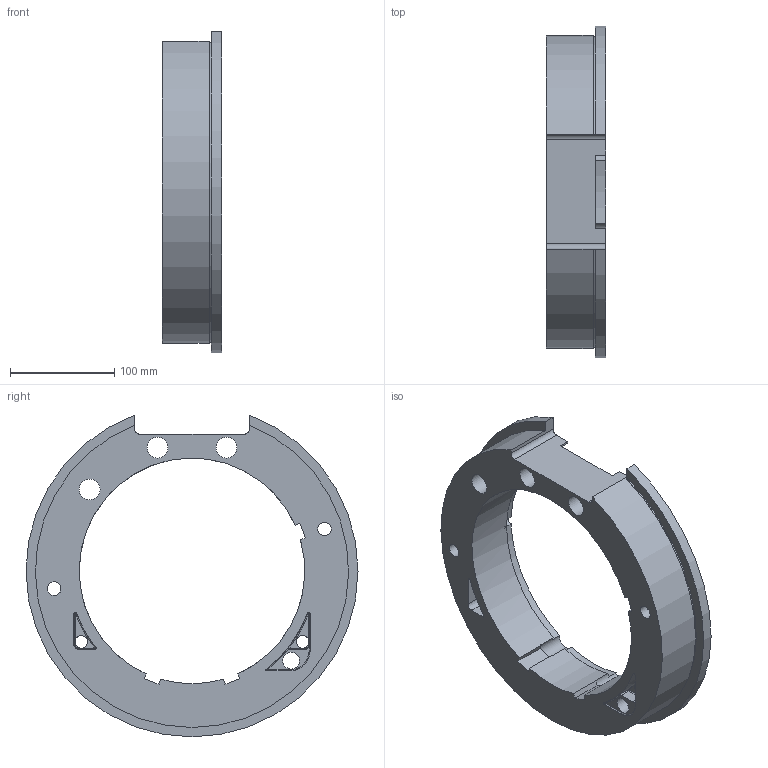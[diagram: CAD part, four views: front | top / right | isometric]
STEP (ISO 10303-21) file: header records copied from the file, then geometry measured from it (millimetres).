
FILE_DESCRIPTION(('STEP AP203'), '1');
FILE_NAME('28 Âñòàâêà', '', ('UNSPECIFIED'), ('UNSPECIFIED'), 'C3D Converter', 'C3D Toolkit', '');
FILE_SCHEMA(('CONFIG_CONTROL_DESIGN'));
Length unit declared in the file: millimetre
Products named in the file (1): ПФН 295 106/28
Bounding box: 57 x 318 x 308.18 mm (x, y, z)
Volume: 1752396.8 mm3; surface area: 196829.7 mm2
Topology: 1 solids, 1 shells, 115 faces, 306 edges, 190 vertices
Faces by surface type: plane 43, cylinder 41, cone 13, bspline 10, torus 8
Full cylindrical faces by diameter (mm): 12 x2, 13 x2, 14 x2, 16 x1, 18 x1, 20 x3, 22 x3
Entity records: 6724 total; most frequent: CARTESIAN_POINT 2904, DIRECTION 624, ORIENTED_EDGE 570, EDGE_CURVE 285, AXIS2_PLACEMENT_3D 246, VERTEX_POINT 189, EDGE_LOOP 150, CIRCLE 140
